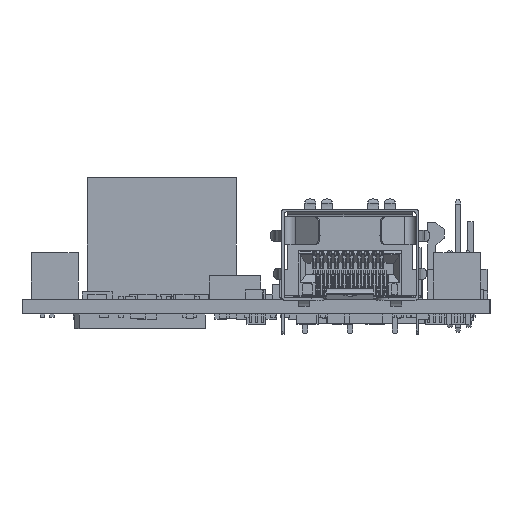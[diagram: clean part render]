
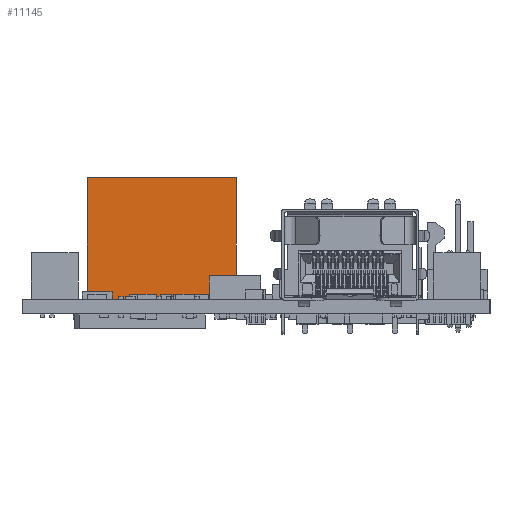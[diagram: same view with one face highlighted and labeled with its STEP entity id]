
A CAD part, left-side view. The second image highlights one B-rep face of the part: STEP entity #11145.
In plain terms, the highlighted planar face has unit normal (-1, 0, 0).
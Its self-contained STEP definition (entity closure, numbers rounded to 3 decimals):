
#10976 = PLANE('',#10977);
#10977 = AXIS2_PLACEMENT_3D('',#10978,#10979,#10980);
#10978 = CARTESIAN_POINT('',(-10.795,7.976,0.));
#10979 = DIRECTION('',(0.,1.,0.));
#10980 = DIRECTION('',(1.,0.,0.));
#11004 = PLANE('',#11005);
#11005 = AXIS2_PLACEMENT_3D('',#11006,#11007,#11008);
#11006 = CARTESIAN_POINT('',(10.795,7.976,13.));
#11007 = DIRECTION('',(0.,0.,1.));
#11008 = DIRECTION('',(1.,0.,0.));
#11032 = PLANE('',#11033);
#11033 = AXIS2_PLACEMENT_3D('',#11034,#11035,#11036);
#11034 = CARTESIAN_POINT('',(10.795,-7.976,0.));
#11035 = DIRECTION('',(0.,-1.,0.));
#11036 = DIRECTION('',(-1.,0.,0.));
#11058 = PLANE('',#11059);
#11059 = AXIS2_PLACEMENT_3D('',#11060,#11061,#11062);
#11060 = CARTESIAN_POINT('',(10.795,7.976,0.));
#11061 = DIRECTION('',(0.,0.,1.));
#11062 = DIRECTION('',(1.,0.,0.));
#11075 = VERTEX_POINT('',#11076);
#11076 = CARTESIAN_POINT('',(-10.795,-7.976,13.));
#11097 = EDGE_CURVE('',#11098,#11075,#11100,.T.);
#11098 = VERTEX_POINT('',#11099);
#11099 = CARTESIAN_POINT('',(-10.795,-7.976,0.));
#11100 = SURFACE_CURVE('',#11101,(#11105,#11112),.PCURVE_S1.);
#11101 = LINE('',#11102,#11103);
#11102 = CARTESIAN_POINT('',(-10.795,-7.976,0.));
#11103 = VECTOR('',#11104,1.);
#11104 = DIRECTION('',(0.,0.,1.));
#11105 = PCURVE('',#11032,#11106);
#11106 = DEFINITIONAL_REPRESENTATION('',(#11107),#11111);
#11107 = LINE('',#11108,#11109);
#11108 = CARTESIAN_POINT('',(21.59,0.));
#11109 = VECTOR('',#11110,1.);
#11110 = DIRECTION('',(0.,-1.));
#11111 = ( GEOMETRIC_REPRESENTATION_CONTEXT(2) 
PARAMETRIC_REPRESENTATION_CONTEXT() REPRESENTATION_CONTEXT('2D SPACE',''
  ) );
#11112 = PCURVE('',#11113,#11118);
#11113 = PLANE('',#11114);
#11114 = AXIS2_PLACEMENT_3D('',#11115,#11116,#11117);
#11115 = CARTESIAN_POINT('',(-10.795,-7.976,0.));
#11116 = DIRECTION('',(-1.,0.,0.));
#11117 = DIRECTION('',(0.,1.,0.));
#11118 = DEFINITIONAL_REPRESENTATION('',(#11119),#11123);
#11119 = LINE('',#11120,#11121);
#11120 = CARTESIAN_POINT('',(0.,0.));
#11121 = VECTOR('',#11122,1.);
#11122 = DIRECTION('',(0.,-1.));
#11123 = ( GEOMETRIC_REPRESENTATION_CONTEXT(2) 
PARAMETRIC_REPRESENTATION_CONTEXT() REPRESENTATION_CONTEXT('2D SPACE',''
  ) );
#11145 = ADVANCED_FACE('',(#11146),#11113,.T.);
#11146 = FACE_BOUND('',#11147,.T.);
#11147 = EDGE_LOOP('',(#11148,#11149,#11172,#11195));
#11148 = ORIENTED_EDGE('',*,*,#11097,.T.);
#11149 = ORIENTED_EDGE('',*,*,#11150,.T.);
#11150 = EDGE_CURVE('',#11075,#11151,#11153,.T.);
#11151 = VERTEX_POINT('',#11152);
#11152 = CARTESIAN_POINT('',(-10.795,7.976,13.));
#11153 = SURFACE_CURVE('',#11154,(#11158,#11165),.PCURVE_S1.);
#11154 = LINE('',#11155,#11156);
#11155 = CARTESIAN_POINT('',(-10.795,-7.976,13.));
#11156 = VECTOR('',#11157,1.);
#11157 = DIRECTION('',(0.,1.,0.));
#11158 = PCURVE('',#11113,#11159);
#11159 = DEFINITIONAL_REPRESENTATION('',(#11160),#11164);
#11160 = LINE('',#11161,#11162);
#11161 = CARTESIAN_POINT('',(0.,-13.));
#11162 = VECTOR('',#11163,1.);
#11163 = DIRECTION('',(1.,0.));
#11164 = ( GEOMETRIC_REPRESENTATION_CONTEXT(2) 
PARAMETRIC_REPRESENTATION_CONTEXT() REPRESENTATION_CONTEXT('2D SPACE',''
  ) );
#11165 = PCURVE('',#11004,#11166);
#11166 = DEFINITIONAL_REPRESENTATION('',(#11167),#11171);
#11167 = LINE('',#11168,#11169);
#11168 = CARTESIAN_POINT('',(-21.59,-15.951));
#11169 = VECTOR('',#11170,1.);
#11170 = DIRECTION('',(0.,1.));
#11171 = ( GEOMETRIC_REPRESENTATION_CONTEXT(2) 
PARAMETRIC_REPRESENTATION_CONTEXT() REPRESENTATION_CONTEXT('2D SPACE',''
  ) );
#11172 = ORIENTED_EDGE('',*,*,#11173,.F.);
#11173 = EDGE_CURVE('',#11174,#11151,#11176,.T.);
#11174 = VERTEX_POINT('',#11175);
#11175 = CARTESIAN_POINT('',(-10.795,7.976,0.));
#11176 = SURFACE_CURVE('',#11177,(#11181,#11188),.PCURVE_S1.);
#11177 = LINE('',#11178,#11179);
#11178 = CARTESIAN_POINT('',(-10.795,7.976,0.));
#11179 = VECTOR('',#11180,1.);
#11180 = DIRECTION('',(0.,0.,1.));
#11181 = PCURVE('',#11113,#11182);
#11182 = DEFINITIONAL_REPRESENTATION('',(#11183),#11187);
#11183 = LINE('',#11184,#11185);
#11184 = CARTESIAN_POINT('',(15.951,0.));
#11185 = VECTOR('',#11186,1.);
#11186 = DIRECTION('',(0.,-1.));
#11187 = ( GEOMETRIC_REPRESENTATION_CONTEXT(2) 
PARAMETRIC_REPRESENTATION_CONTEXT() REPRESENTATION_CONTEXT('2D SPACE',''
  ) );
#11188 = PCURVE('',#10976,#11189);
#11189 = DEFINITIONAL_REPRESENTATION('',(#11190),#11194);
#11190 = LINE('',#11191,#11192);
#11191 = CARTESIAN_POINT('',(0.,0.));
#11192 = VECTOR('',#11193,1.);
#11193 = DIRECTION('',(0.,-1.));
#11194 = ( GEOMETRIC_REPRESENTATION_CONTEXT(2) 
PARAMETRIC_REPRESENTATION_CONTEXT() REPRESENTATION_CONTEXT('2D SPACE',''
  ) );
#11195 = ORIENTED_EDGE('',*,*,#11196,.F.);
#11196 = EDGE_CURVE('',#11098,#11174,#11197,.T.);
#11197 = SURFACE_CURVE('',#11198,(#11202,#11209),.PCURVE_S1.);
#11198 = LINE('',#11199,#11200);
#11199 = CARTESIAN_POINT('',(-10.795,-7.976,0.));
#11200 = VECTOR('',#11201,1.);
#11201 = DIRECTION('',(0.,1.,0.));
#11202 = PCURVE('',#11113,#11203);
#11203 = DEFINITIONAL_REPRESENTATION('',(#11204),#11208);
#11204 = LINE('',#11205,#11206);
#11205 = CARTESIAN_POINT('',(0.,0.));
#11206 = VECTOR('',#11207,1.);
#11207 = DIRECTION('',(1.,0.));
#11208 = ( GEOMETRIC_REPRESENTATION_CONTEXT(2) 
PARAMETRIC_REPRESENTATION_CONTEXT() REPRESENTATION_CONTEXT('2D SPACE',''
  ) );
#11209 = PCURVE('',#11058,#11210);
#11210 = DEFINITIONAL_REPRESENTATION('',(#11211),#11215);
#11211 = LINE('',#11212,#11213);
#11212 = CARTESIAN_POINT('',(-21.59,-15.951));
#11213 = VECTOR('',#11214,1.);
#11214 = DIRECTION('',(0.,1.));
#11215 = ( GEOMETRIC_REPRESENTATION_CONTEXT(2) 
PARAMETRIC_REPRESENTATION_CONTEXT() REPRESENTATION_CONTEXT('2D SPACE',''
  ) );
